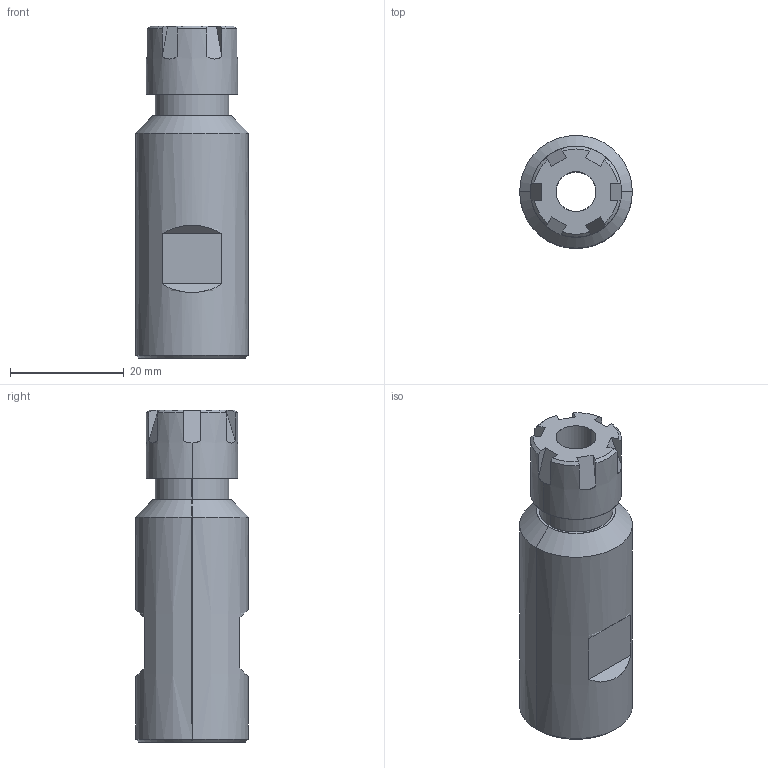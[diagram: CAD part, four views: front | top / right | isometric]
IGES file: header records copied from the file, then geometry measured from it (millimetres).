
Start section: SolidWorks IGES file using analytic representation for surfaces
Global section: file name: R:\Inventor\Kundmodeller Solidworks\Chuckar\041J004020 Collet chuck ER11 B10 1-8 mm.IGS; native system: SolidWorks 2008; preprocessor: SolidWorks 2008; author: Johan; date: 090903.160218; units: millimetre
Bounding box: 19.8 x 19.8 x 58.3 mm (x, y, z)
Surface area: 5357.6 mm2 (no closed solid volume)
Topology: 0 solids, 0 shells, 51 faces, 612 edges, 612 vertices
Faces by surface type: bspline 29, revolution 22
